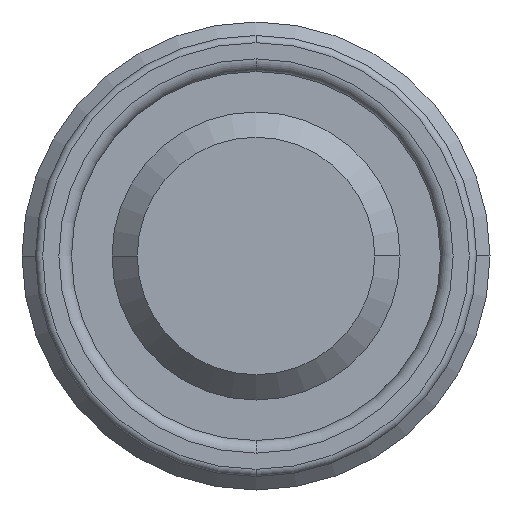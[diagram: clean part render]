
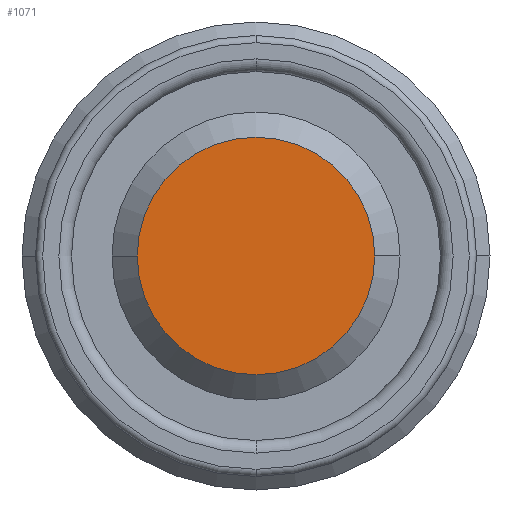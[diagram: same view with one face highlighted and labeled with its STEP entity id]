
A CAD part, front view. The second image highlights one B-rep face of the part: STEP entity #1071.
In plain terms, the highlighted planar face has unit normal (0, -1, 0).
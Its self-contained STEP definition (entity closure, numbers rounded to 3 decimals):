
#703=PLANE('',#2810);
#1071=ADVANCED_FACE('',(#1240),#703,.F.);
#1240=FACE_OUTER_BOUND('',#1370,.T.);
#1370=EDGE_LOOP('',(#1717,#1718));
#1717=ORIENTED_EDGE('',*,*,#2359,.T.);
#1718=ORIENTED_EDGE('',*,*,#2360,.T.);
#2129=VERTEX_POINT('',#4234);
#2130=VERTEX_POINT('',#4235);
#2359=EDGE_CURVE('',#2129,#2130,#2583,.T.);
#2360=EDGE_CURVE('',#2130,#2129,#2584,.T.);
#2583=CIRCLE('',#2808,6.6);
#2584=CIRCLE('',#2809,6.6);
#2808=AXIS2_PLACEMENT_3D('',#4233,#3276,#3277);
#2809=AXIS2_PLACEMENT_3D('',#4236,#3278,#3279);
#2810=AXIS2_PLACEMENT_3D('',#4237,#3280,#3281);
#3276=DIRECTION('',(0.,-1.,0.));
#3277=DIRECTION('',(0.,0.,1.));
#3278=DIRECTION('',(0.,-1.,0.));
#3279=DIRECTION('',(0.,0.,1.));
#3280=DIRECTION('',(0.,1.,0.));
#3281=DIRECTION('',(0.,0.,-1.));
#4233=CARTESIAN_POINT('',(0.,18.5,0.));
#4234=CARTESIAN_POINT('',(-6.6,18.5,0.));
#4235=CARTESIAN_POINT('',(6.6,18.5,0.));
#4236=CARTESIAN_POINT('',(0.,18.5,0.));
#4237=CARTESIAN_POINT('',(0.,18.5,0.));
